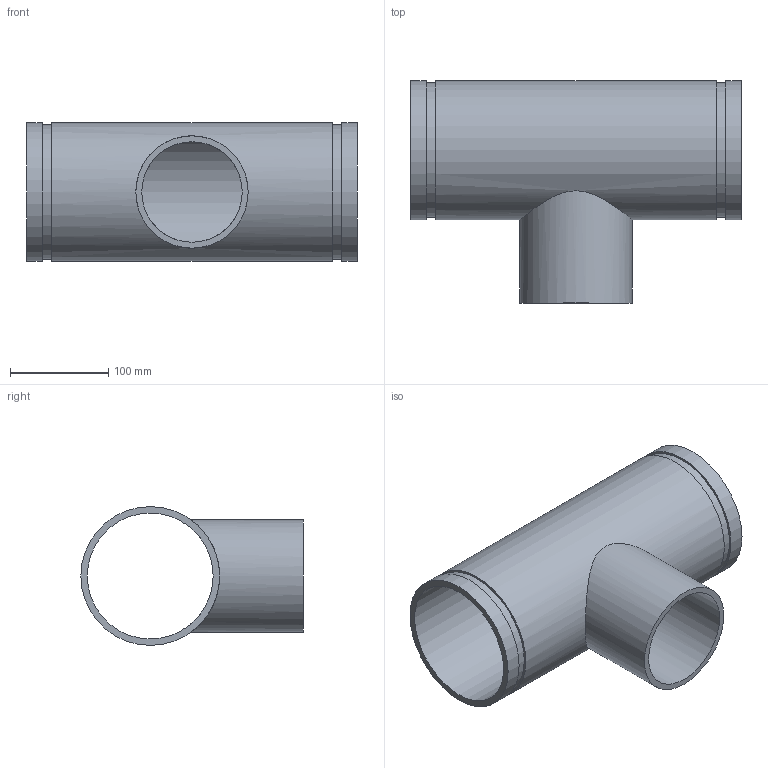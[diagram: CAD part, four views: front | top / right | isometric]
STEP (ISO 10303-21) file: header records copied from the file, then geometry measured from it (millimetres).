
FILE_DESCRIPTION(/* description */ ('VIC REDUCING TEE No 29T FFT (OGSxMPT)','CAx-IF Rec.Pracs.---Representation and Presentation of Product Manufacturing Information (PMI)---4.0---2014-10-13'),/* implementation_level */ '2;1');
FILE_NAME(/* name */ 'C:\Users\kkamble\AppData\Roaming\Autodesk\ApplicationPlugins\Back Up\Victaulic_IPS_Tee Reducing_No 29T FFT (OGSxMPT)\Victaulic_IPS_Tee Reducing_No 29T FFT (OGSxMPT)_05.0x04.0 (125x100).stp',/* time_stamp */ '2020-09-16T22:38:25+05:00',/* author */ ('CORINNE GRAY'),/* organization */ ('Victaulic'),/* preprocessor_version */ 'ST-DEVELOPER v17.2',/* originating_system */ 'Autodesk Inventor 2019',/* authorisation */ '');
FILE_SCHEMA (('AP242_MANAGED_MODEL_BASED_3D_ENGINEERING_MIM_LF { 1 0 10303 442 1 1 4 }'));
Length unit declared in the file: inch
Products named in the file (1): 29 FFT-05.0x04.0
Bounding box: 336.8 x 226.35 x 141.3 mm (x, y, z)
Volume: 1056416.4 mm3; surface area: 344377.5 mm2
Topology: 1 solids, 1 shells, 15 faces, 32 edges, 24 vertices
Faces by surface type: cylinder 8, plane 7
Full cylindrical faces by diameter (mm): 102.26 x1, 114.3 x1, 128.194 x1, 137.033 x2, 141.3 x3
Entity records: 709 total; most frequent: CARTESIAN_POINT 221, DIRECTION 106, ORIENTED_EDGE 64, AXIS2_PLACEMENT_3D 49, EDGE_CURVE 32, EDGE_LOOP 24, VERTEX_POINT 24, CIRCLE 20
